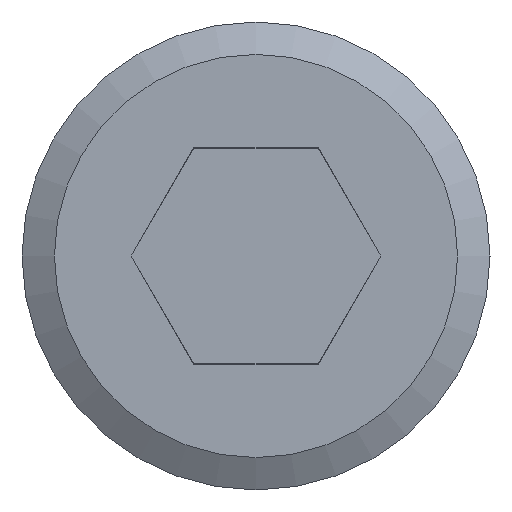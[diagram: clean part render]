
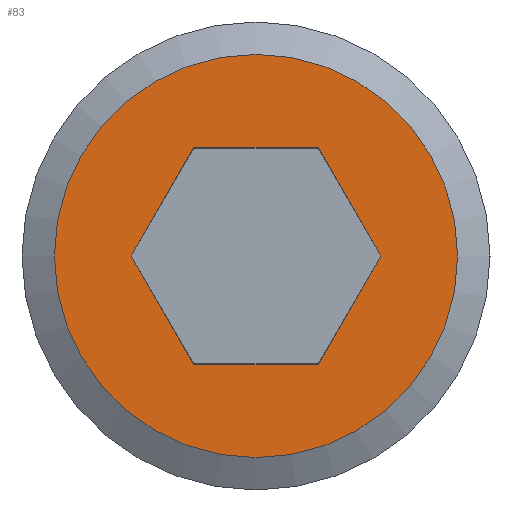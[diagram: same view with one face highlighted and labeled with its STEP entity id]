
A CAD part, left-side view. The second image highlights one B-rep face of the part: STEP entity #83.
In plain terms, the highlighted free-form (B-spline) face has degree [1, 1] with [3, 4] control points.
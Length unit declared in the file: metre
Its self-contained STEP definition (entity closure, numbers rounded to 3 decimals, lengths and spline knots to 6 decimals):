
#83 = ADVANCED_FACE( '', ( #110, #111 ), #112, .T. );
#110 = FACE_BOUND( '', #235, .T. );
#111 = FACE_OUTER_BOUND( '', #236, .T. );
#112 = B_SPLINE_SURFACE_WITH_KNOTS( '', 1, 1, ( ( #237, #238, #239, #240 ), ( #241, #242, #243, #244 ), ( #245, #246, #247, #248 ) ), .UNSPECIFIED., .F., .F., .F., ( 2, 1, 2 ), ( 2, 1, 1, 2 ), ( -0.409091, 0., 1. ), ( -0.287296, 0., 1., 1.287296 ), .UNSPECIFIED. );
#235 = EDGE_LOOP( '', ( #315, #316, #317, #318, #319, #320 ) );
#236 = EDGE_LOOP( '', ( #321 ) );
#237 = CARTESIAN_POINT( '', ( 6.053532, 3.94351, 0.0227 ) );
#238 = CARTESIAN_POINT( '', ( 6.053532, 3.94351, 0.01916 ) );
#239 = CARTESIAN_POINT( '', ( 6.053532, 3.94351, 0.00684 ) );
#240 = CARTESIAN_POINT( '', ( 6.053532, 3.94351, 0.003301 ) );
#241 = CARTESIAN_POINT( '', ( 6.053532, 3.94855, 0.0227 ) );
#242 = CARTESIAN_POINT( '', ( 6.053532, 3.94855, 0.01916 ) );
#243 = CARTESIAN_POINT( '', ( 6.053532, 3.94855, 0.00684 ) );
#244 = CARTESIAN_POINT( '', ( 6.053532, 3.94855, 0.003301 ) );
#245 = CARTESIAN_POINT( '', ( 6.053532, 3.96087, 0.0227 ) );
#246 = CARTESIAN_POINT( '', ( 6.053532, 3.96087, 0.01916 ) );
#247 = CARTESIAN_POINT( '', ( 6.053532, 3.96087, 0.00684 ) );
#248 = CARTESIAN_POINT( '', ( 6.053532, 3.96087, 0.003301 ) );
#315 = ORIENTED_EDGE( '', *, *, #357, .F. );
#316 = ORIENTED_EDGE( '', *, *, #358, .F. );
#317 = ORIENTED_EDGE( '', *, *, #359, .F. );
#318 = ORIENTED_EDGE( '', *, *, #350, .F. );
#319 = ORIENTED_EDGE( '', *, *, #348, .F. );
#320 = ORIENTED_EDGE( '', *, *, #360, .F. );
#321 = ORIENTED_EDGE( '', *, *, #356, .T. );
#348 = EDGE_CURVE( '', #378, #380, #381, .T. );
#350 = EDGE_CURVE( '', #380, #383, #384, .T. );
#356 = EDGE_CURVE( '', #394, #394, #395, .F. );
#357 = EDGE_CURVE( '', #396, #397, #398, .T. );
#358 = EDGE_CURVE( '', #399, #396, #400, .T. );
#359 = EDGE_CURVE( '', #383, #399, #401, .T. );
#360 = EDGE_CURVE( '', #397, #378, #402, .T. );
#378 = VERTEX_POINT( '', #434 );
#380 = VERTEX_POINT( '', #437 );
#381 = LINE( '', #438, #439 );
#383 = VERTEX_POINT( '', #442 );
#384 = LINE( '', #443, #444 );
#394 = VERTEX_POINT( '', #455 );
#395 = CIRCLE( '', #456, 0.0056 );
#396 = VERTEX_POINT( '', #457 );
#397 = VERTEX_POINT( '', #458 );
#398 = LINE( '', #459, #460 );
#399 = VERTEX_POINT( '', #461 );
#400 = LINE( '', #462, #463 );
#401 = LINE( '', #464, #465 );
#402 = LINE( '', #466, #467 );
#434 = CARTESIAN_POINT( '', ( 6.053532, 3.956442, 0.01 ) );
#437 = CARTESIAN_POINT( '', ( 6.053532, 3.952978, 0.01 ) );
#438 = CARTESIAN_POINT( '', ( 6.053532, 3.95471, 0.01 ) );
#439 = VECTOR( '', #480, 1. );
#442 = CARTESIAN_POINT( '', ( 6.053532, 3.951246, 0.013 ) );
#443 = CARTESIAN_POINT( '', ( 6.053532, 3.952112, 0.0115 ) );
#444 = VECTOR( '', #482, 1. );
#455 = CARTESIAN_POINT( '', ( 6.053532, 3.96031, 0.013 ) );
#456 = AXIS2_PLACEMENT_3D( '', #496, #497, #498 );
#457 = CARTESIAN_POINT( '', ( 6.053532, 3.956442, 0.016 ) );
#458 = CARTESIAN_POINT( '', ( 6.053532, 3.958174, 0.013 ) );
#459 = CARTESIAN_POINT( '', ( 6.053532, 3.957308, 0.0145 ) );
#460 = VECTOR( '', #499, 1. );
#461 = CARTESIAN_POINT( '', ( 6.053532, 3.952978, 0.016 ) );
#462 = CARTESIAN_POINT( '', ( 6.053532, 3.95471, 0.016 ) );
#463 = VECTOR( '', #500, 1. );
#464 = CARTESIAN_POINT( '', ( 6.053532, 3.952112, 0.0145 ) );
#465 = VECTOR( '', #501, 1. );
#466 = CARTESIAN_POINT( '', ( 6.053532, 3.957308, 0.0115 ) );
#467 = VECTOR( '', #502, 1. );
#480 = DIRECTION( '', ( 0., -1., 0. ) );
#482 = DIRECTION( '', ( 0., -0.5, 0.866 ) );
#496 = CARTESIAN_POINT( '', ( 6.053532, 3.95471, 0.013 ) );
#497 = DIRECTION( '', ( 1., 0., 0. ) );
#498 = DIRECTION( '', ( 0., 0., -1. ) );
#499 = DIRECTION( '', ( 0., 0.5, -0.866 ) );
#500 = DIRECTION( '', ( 0., 1., 0. ) );
#501 = DIRECTION( '', ( 0., 0.5, 0.866 ) );
#502 = DIRECTION( '', ( 0., -0.5, -0.866 ) );
